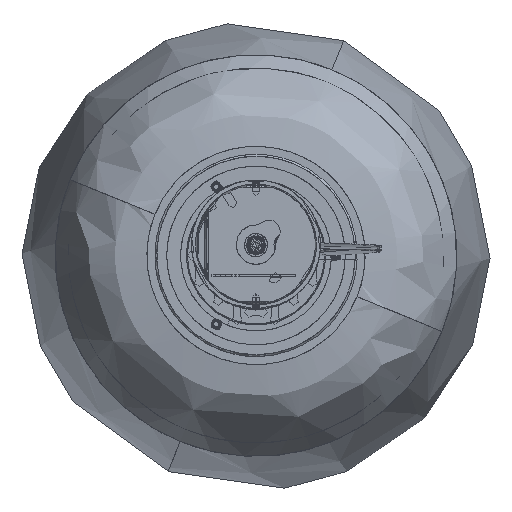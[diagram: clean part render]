
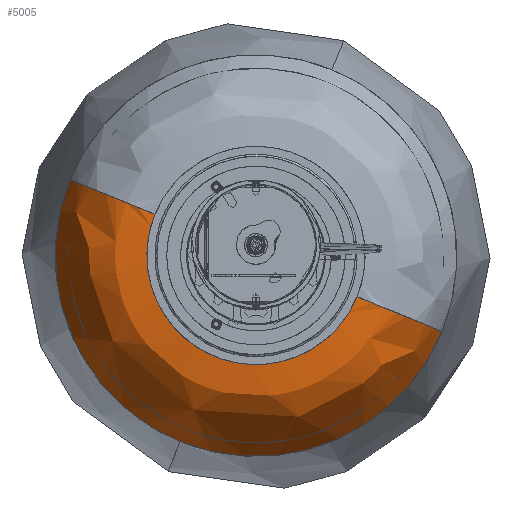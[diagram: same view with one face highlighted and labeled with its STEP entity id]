
A CAD part, top view. The second image highlights one B-rep face of the part: STEP entity #5005.
In plain terms, the highlighted free-form (B-spline) face has degree [2, 3] with [3, 4] control points.
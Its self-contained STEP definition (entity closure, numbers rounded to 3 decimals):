
#5005=ADVANCED_FACE('',(#6181),#32873,.T.);
#6181=FACE_OUTER_BOUND('',#7478,.T.);
#7478=EDGE_LOOP('',(#11313,#11314,#11315,#11316,#11317));
#11313=ORIENTED_EDGE('',*,*,#17385,.T.);
#11314=ORIENTED_EDGE('',*,*,#17386,.T.);
#11315=ORIENTED_EDGE('',*,*,#17389,.T.);
#11316=ORIENTED_EDGE('',*,*,#17387,.T.);
#11317=ORIENTED_EDGE('',*,*,#17388,.T.);
#17385=EDGE_CURVE('',#29529,#29530,#24729,.T.);
#17386=EDGE_CURVE('',#29530,#29533,#22127,.T.);
#17387=EDGE_CURVE('',#29531,#29532,#24730,.T.);
#17388=EDGE_CURVE('',#29532,#29529,#22128,.T.);
#17389=EDGE_CURVE('',#29533,#29531,#22129,.T.);
#22127=(
BOUNDED_CURVE()
B_SPLINE_CURVE(2,(#71281,#71282,#71283),.UNSPECIFIED.,.F.,.F.)
B_SPLINE_CURVE_WITH_KNOTS((3,3),(0.,0.5),.UNSPECIFIED.)
CURVE()
GEOMETRIC_REPRESENTATION_ITEM()
RATIONAL_B_SPLINE_CURVE((1.,0.707,1.))
REPRESENTATION_ITEM('')
);
#22128=(
BOUNDED_CURVE()
B_SPLINE_CURVE(2,(#71287,#71288,#71289,#71290,#71291),.UNSPECIFIED.,.F.,
 .F.)
B_SPLINE_CURVE_WITH_KNOTS((3,2,3),(-1.,-0.5,0.),.UNSPECIFIED.)
CURVE()
GEOMETRIC_REPRESENTATION_ITEM()
RATIONAL_B_SPLINE_CURVE((1.,0.707,1.,0.707,1.))
REPRESENTATION_ITEM('')
);
#22129=(
BOUNDED_CURVE()
B_SPLINE_CURVE(2,(#71292,#71293,#71294),.UNSPECIFIED.,.F.,.F.)
B_SPLINE_CURVE_WITH_KNOTS((3,3),(0.5,1.),.UNSPECIFIED.)
CURVE()
GEOMETRIC_REPRESENTATION_ITEM()
RATIONAL_B_SPLINE_CURVE((1.,0.707,1.))
REPRESENTATION_ITEM('')
);
#24729=B_SPLINE_CURVE_WITH_KNOTS('',2,(#71278,#71279,#71280),
 .UNSPECIFIED.,.F.,.F.,(3,3),(0.,1.),.UNSPECIFIED.);
#24730=B_SPLINE_CURVE_WITH_KNOTS('',2,(#71284,#71285,#71286),
 .UNSPECIFIED.,.F.,.F.,(3,3),(-1.,0.),.UNSPECIFIED.);
#29529=VERTEX_POINT('',#71273);
#29530=VERTEX_POINT('',#71274);
#29531=VERTEX_POINT('',#71275);
#29532=VERTEX_POINT('',#71276);
#29533=VERTEX_POINT('',#71277);
#32873=(
BOUNDED_SURFACE()
B_SPLINE_SURFACE(2,3,((#71261,#71262,#71263,#71264),(#71265,#71266,#71267,
#71268),(#71269,#71270,#71271,#71272)),.UNSPECIFIED.,.F.,.F.,.F.)
B_SPLINE_SURFACE_WITH_KNOTS((3,3),(4,4),(0.,1.),(0.,1.),.UNSPECIFIED.)
GEOMETRIC_REPRESENTATION_ITEM()
RATIONAL_B_SPLINE_SURFACE(((1.,0.333,0.333,1.),
(1.,0.333,0.333,1.),(1.,0.333,0.333,
1.)))
REPRESENTATION_ITEM('')
SURFACE()
);
#71261=CARTESIAN_POINT('',(-55.,165.,0.));
#71262=CARTESIAN_POINT('',(-55.,165.,110.));
#71263=CARTESIAN_POINT('',(55.,165.,110.));
#71264=CARTESIAN_POINT('',(55.,165.,0.));
#71265=CARTESIAN_POINT('',(-90.,165.,0.));
#71266=CARTESIAN_POINT('',(-90.,165.,180.));
#71267=CARTESIAN_POINT('',(90.,165.,180.));
#71268=CARTESIAN_POINT('',(90.,165.,0.));
#71269=CARTESIAN_POINT('',(-101.234,124.16,0.));
#71270=CARTESIAN_POINT('',(-101.234,124.16,202.469));
#71271=CARTESIAN_POINT('',(101.234,124.16,202.469));
#71272=CARTESIAN_POINT('',(101.234,124.16,0.));
#71273=CARTESIAN_POINT('',(-55.,165.,0.));
#71274=CARTESIAN_POINT('',(-101.234,124.16,0.));
#71275=CARTESIAN_POINT('',(101.234,124.16,0.));
#71276=CARTESIAN_POINT('',(55.,165.,0.));
#71277=CARTESIAN_POINT('',(0.,124.16,101.234));
#71278=CARTESIAN_POINT('',(-55.,165.,0.));
#71279=CARTESIAN_POINT('',(-90.,165.,0.));
#71280=CARTESIAN_POINT('',(-101.234,124.16,0.));
#71281=CARTESIAN_POINT('',(-101.234,124.16,0.));
#71282=CARTESIAN_POINT('',(-101.234,124.16,101.234));
#71283=CARTESIAN_POINT('',(0.,124.16,101.234));
#71284=CARTESIAN_POINT('',(101.234,124.16,0.));
#71285=CARTESIAN_POINT('',(90.,165.,0.));
#71286=CARTESIAN_POINT('',(55.,165.,0.));
#71287=CARTESIAN_POINT('',(55.,165.,0.));
#71288=CARTESIAN_POINT('',(55.,165.,55.));
#71289=CARTESIAN_POINT('',(0.,165.,55.));
#71290=CARTESIAN_POINT('',(-55.,165.,55.));
#71291=CARTESIAN_POINT('',(-55.,165.,0.));
#71292=CARTESIAN_POINT('',(0.,124.16,101.234));
#71293=CARTESIAN_POINT('',(101.234,124.16,101.234));
#71294=CARTESIAN_POINT('',(101.234,124.16,0.));
